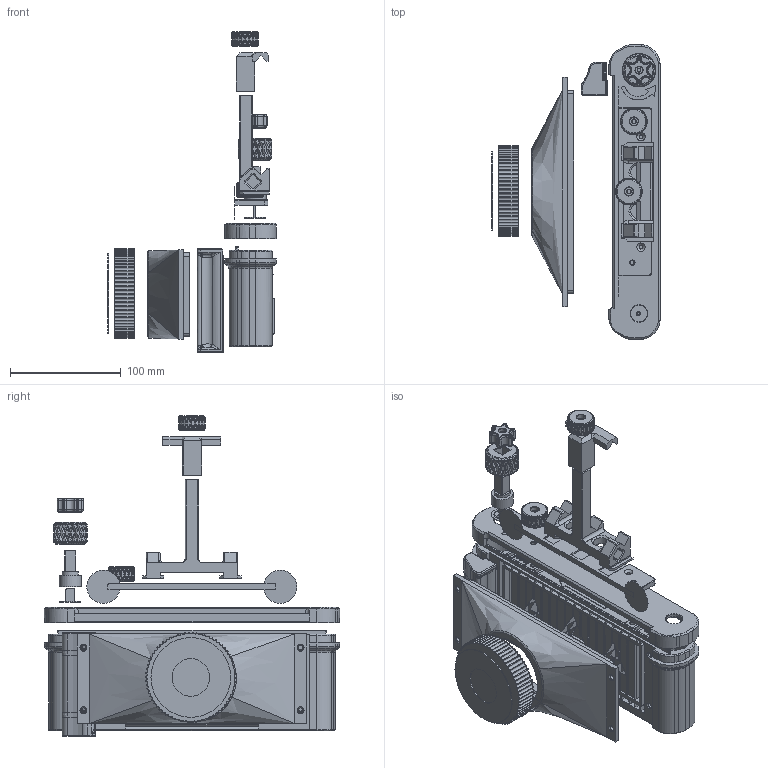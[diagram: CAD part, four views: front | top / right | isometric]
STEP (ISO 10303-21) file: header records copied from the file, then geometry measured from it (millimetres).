
FILE_DESCRIPTION(/* description */ (''),/* implementation_level */ '2;1');
FILE_NAME(/* name */ 'C:/Users/mcjor/3D Objects/6x17 Camera/6x17/v5/6x17 v5 complete.stp',/* time_stamp */ '2023-02-05T03:07:35+01:00',/* author */ (''),/* organization */ (''),/* preprocessor_version */ 'ST-DEVELOPER v15.2',/* originating_system */ 'Autodesk Translator Framework v2.0.0.5431',/* authorisation */ '');
FILE_SCHEMA (('AUTOMOTIVE_DESIGN { 1 0 10303 214 3 1 1 }'));
Products named in the file (1): body v5
Bounding box: 152.38 x 267 x 289.89 mm (x, y, z)
Volume: 726282.1 mm3; surface area: 386850.7 mm2
Topology: 55 solids, 55 shells, 3594 faces, 9070 edges, 5632 vertices
Faces by surface type: plane 2183, cylinder 620, bspline 332, torus 281, cone 166, sphere 12
Full cylindrical faces by diameter (mm): 1 x28, 3.3 x4, 3.4 x1, 3.5 x6, 3.539 x2, 3.6 x1, 3.8 x4, 3.839 x4, 4 x2, 4.039 x2, 4.24 x4, 4.6 x3, 6.4 x3, 7.7 x2, 10 x1, 14 x3, 14.5 x1, 15 x2, 15.1 x1, 19.2 x1, 20 x1, 21.2 x2, 27.15 x2, 34 x1, 72.246 x1
Entity records: 115298 total; most frequent: CARTESIAN_POINT 32746, ORIENTED_EDGE 17790, DIRECTION 15954, EDGE_CURVE 8895, VERTEX_POINT 5617, AXIS2_PLACEMENT_3D 5425, LINE 5104, VECTOR 5104
